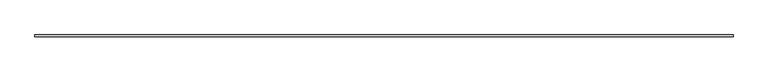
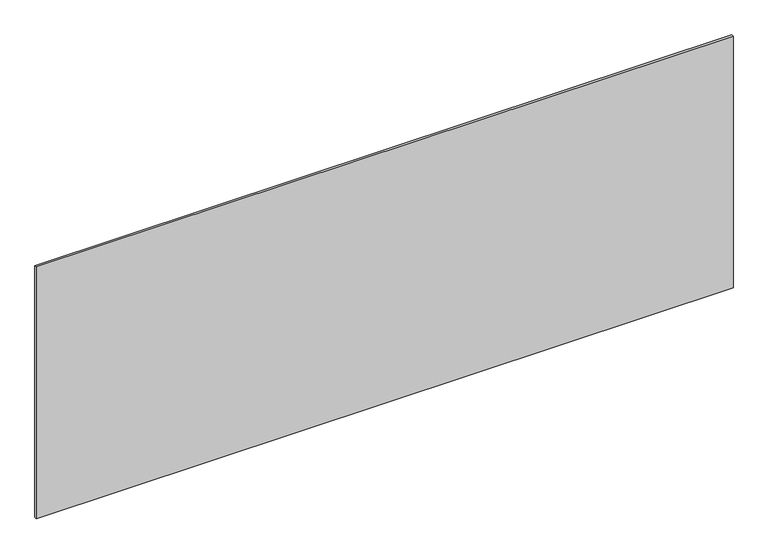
"""IFC4 building model written with IfcOpenShell, lengths in millimetres: plate geometry, システム パネル : 標準."""

from ifc_helpers import new_model, si_unit, origin, origin_with_axes, place, context, project, spatial, polyline, outline, extrude, source, transform, mapped, element, save


def plate_8248b05d(model_context):
    return source(origin(), model_context, "Body", "SweptSolid", [
        extrude(outline(polyline([(1715.0, -5.0), (-1715.0, -5.0), (-1715.0, 5.0), (1715.0, 5.0), (1715.0, -5.0)])), origin_with_axes(), (0.0, 0.0, 1.0), 1309.8788902),
    ])


if __name__ == "__main__":
    model = new_model("IFC4")
    model_context = context("Model", 3, world=origin())
    ifc_project = project(units=[si_unit("LENGTHUNIT", "METRE", prefix="MILLI")], contexts=[model_context])
    site = spatial("IfcSite", under=ifc_project)
    building = spatial("IfcBuilding", under=site)
    placement = place(None, origin())
    plate_shape = plate_8248b05d(model_context)
    element("IfcPlate", 1, ObjectType="システム パネル : 標準", at=placement, inside=building, context=model_context, shape_type="MappedRepresentation", body=[
        mapped(plate_shape, transform((0.0, 0.0, 0.0), x_axis=(1.0, 0.0, 0.0), y_axis=(0.0, 1.0, 0.0), z_axis=(0.0, 0.0, 1.0))),
    ])
    save(model, "model.ifc")
